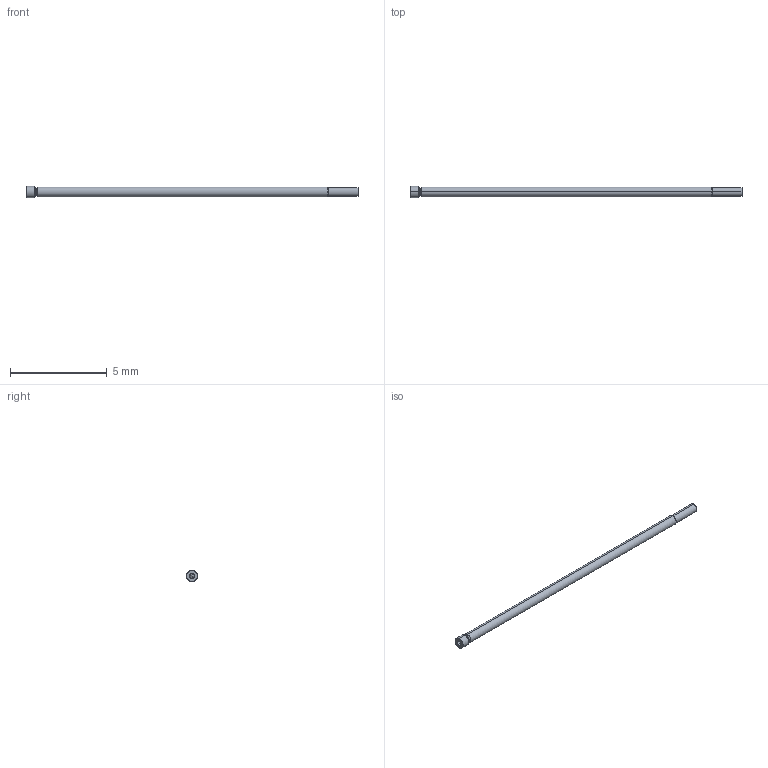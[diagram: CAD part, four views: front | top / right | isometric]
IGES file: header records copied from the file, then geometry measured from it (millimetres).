
Start section: SolidWorks IGES file using analytic representation for surfaces
Global section: file name: Z:\probe solid model mockups\Solidworks models\MEP-20 IGS files\MEP-20B Full.IGS; native system: SolidWorks 2006 by SolidWorks Corporation; preprocessor: SolidWorks 2006 by SolidWorks Corporation; author: tsakatani; date: 071219.112632; units: inch
Bounding box: 17.14 x 0.58 x 0.58 mm (x, y, z)
Surface area: 28.3 mm2 (no closed solid volume)
Topology: 0 solids, 0 shells, 20 faces, 120 edges, 118 vertices
Faces by surface type: revolution 14, bspline 6
